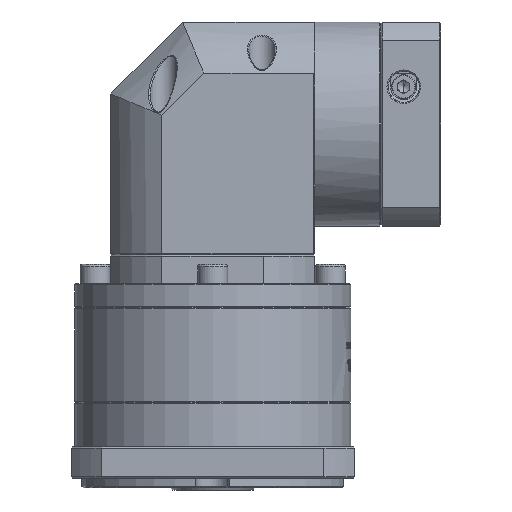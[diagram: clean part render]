
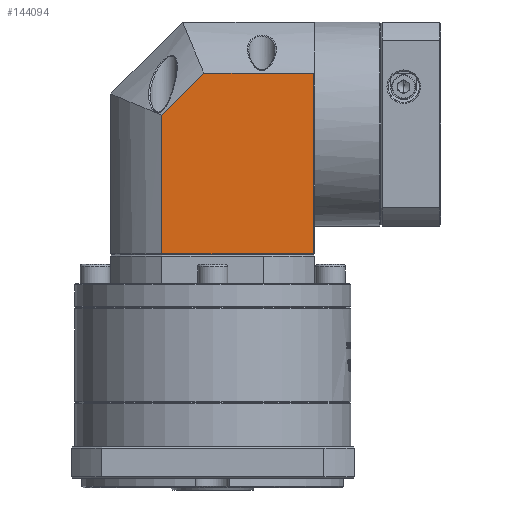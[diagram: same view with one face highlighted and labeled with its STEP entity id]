
A CAD part, front view. The second image highlights one B-rep face of the part: STEP entity #144094.
In plain terms, the highlighted planar face has unit normal (0, -1, 0).
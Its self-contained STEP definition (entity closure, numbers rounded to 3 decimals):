
#2879 = VERTEX_POINT ( 'NONE', #22682 ) ;
#14905 = VECTOR ( 'NONE', #107349, 1000. ) ;
#18973 = CARTESIAN_POINT ( 'NONE',  ( -12.31, 96.108, 6.84 ) ) ;
#22682 = CARTESIAN_POINT ( 'NONE',  ( 50.903, 96.108, -89.66 ) ) ;
#25580 = CARTESIAN_POINT ( 'NONE',  ( -12.31, 96.108, -31.977 ) ) ;
#30579 = EDGE_CURVE ( 'NONE', #133335, #2879, #41623, .T. ) ;
#37023 = AXIS2_PLACEMENT_3D ( 'NONE', #52138, #91713, #155511 ) ;
#37366 = VERTEX_POINT ( 'NONE', #64123 ) ;
#38384 = CARTESIAN_POINT ( 'NONE',  ( 51.403, 96.108, -89.66 ) ) ;
#41623 = LINE ( 'NONE', #38384, #49827 ) ;
#42769 = LINE ( 'NONE', #18973, #69421 ) ;
#48375 = VERTEX_POINT ( 'NONE', #55784 ) ;
#49827 = VECTOR ( 'NONE', #118102, 1000. ) ;
#52138 = CARTESIAN_POINT ( 'NONE',  ( 51.403, 96.108, 6.84 ) ) ;
#55784 = CARTESIAN_POINT ( 'NONE',  ( 50.903, 96.108, -14.446 ) ) ;
#63638 = PLANE ( 'NONE',  #37023 ) ;
#64123 = CARTESIAN_POINT ( 'NONE',  ( 5.221, 96.108, -14.446 ) ) ;
#69421 = VECTOR ( 'NONE', #110854, 1000. ) ;
#70897 = VERTEX_POINT ( 'NONE', #25580 ) ;
#74995 = EDGE_CURVE ( 'NONE', #133335, #70897, #42769, .T. ) ;
#81342 = EDGE_LOOP ( 'NONE', ( #122715, #116408, #101136, #86736, #101543 ) ) ;
#86736 = ORIENTED_EDGE ( 'NONE', *, *, #99312, .F. ) ;
#87486 = VECTOR ( 'NONE', #139654, 1000. ) ;
#89415 = CARTESIAN_POINT ( 'NONE',  ( -12.31, 96.108, -31.977 ) ) ;
#91713 = DIRECTION ( 'NONE',  ( 0., 1., 0. ) ) ;
#96547 = FACE_OUTER_BOUND ( 'NONE', #81342, .T. ) ;
#99312 = EDGE_CURVE ( 'NONE', #70897, #37366, #114800, .T. ) ;
#100580 = CARTESIAN_POINT ( 'NONE',  ( 50.903, 96.108, 6.84 ) ) ;
#101136 = ORIENTED_EDGE ( 'NONE', *, *, #143103, .F. ) ;
#101543 = ORIENTED_EDGE ( 'NONE', *, *, #74995, .F. ) ;
#107349 = DIRECTION ( 'NONE',  ( 1., 0., 0. ) ) ;
#107391 = LINE ( 'NONE', #159025, #14905 ) ;
#110044 = LINE ( 'NONE', #100580, #87486 ) ;
#110854 = DIRECTION ( 'NONE',  ( 0., 0., 1. ) ) ;
#114800 = LINE ( 'NONE', #89415, #157987 ) ;
#116408 = ORIENTED_EDGE ( 'NONE', *, *, #134576, .F. ) ;
#118102 = DIRECTION ( 'NONE',  ( 1., 0., 0. ) ) ;
#122715 = ORIENTED_EDGE ( 'NONE', *, *, #30579, .T. ) ;
#133335 = VERTEX_POINT ( 'NONE', #147516 ) ;
#134576 = EDGE_CURVE ( 'NONE', #48375, #2879, #110044, .T. ) ;
#135172 = DIRECTION ( 'NONE',  ( 0.707, 0., 0.707 ) ) ;
#139654 = DIRECTION ( 'NONE',  ( 0., 0., -1. ) ) ;
#143103 = EDGE_CURVE ( 'NONE', #37366, #48375, #107391, .T. ) ;
#144094 = ADVANCED_FACE ( 'NONE', ( #96547 ), #63638, .F. ) ;
#147516 = CARTESIAN_POINT ( 'NONE',  ( -12.31, 96.108, -89.66 ) ) ;
#155511 = DIRECTION ( 'NONE',  ( -1., 0., 0. ) ) ;
#157987 = VECTOR ( 'NONE', #135172, 1000. ) ;
#159025 = CARTESIAN_POINT ( 'NONE',  ( 51.403, 96.108, -14.446 ) ) ;
